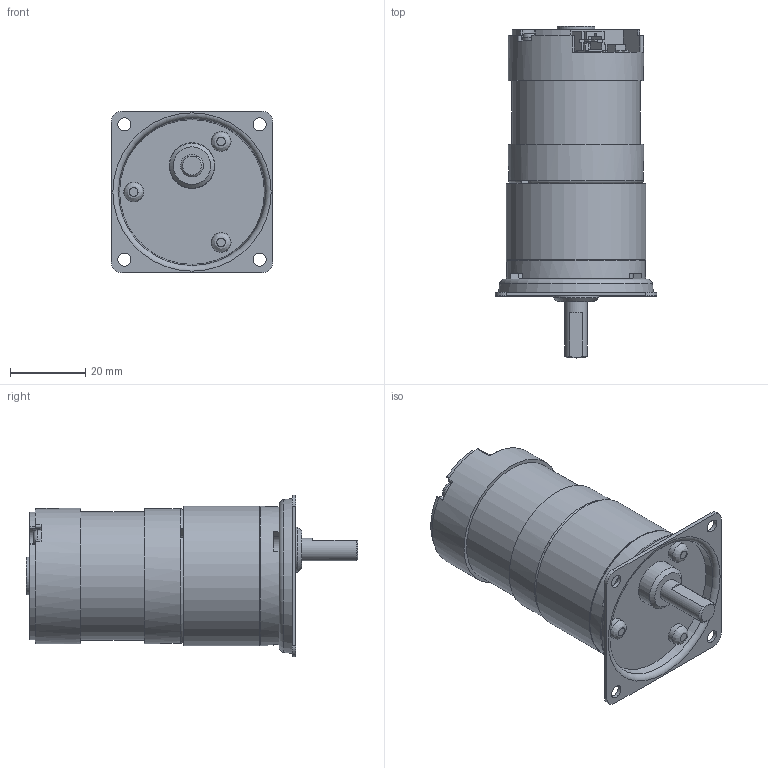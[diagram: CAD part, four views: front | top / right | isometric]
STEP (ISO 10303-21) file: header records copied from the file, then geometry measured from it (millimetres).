
FILE_DESCRIPTION((''),'2;1');
FILE_NAME('\\Servert1600\threepeace\2015homepage\STP\HP-Data_GM_3D_STEP\TP-3641AA,BA,CA,DA,EA(ドライバ内蔵)-PJ-40～100-P00-12,24.stp','2016-11-11T13:11:12',('Administrator'),(''),'Autodesk Inventor 2010','Autodesk Inventor 2010','');
FILE_SCHEMA(('AUTOMOTIVE_DESIGN { 1 0 10303 214 1 1 1 1 }'));
Length unit declared in the file: millimetre
Products named in the file (7): TP-3641AA,BA,CA,DA,EA(ドライバ内蔵)-PJ-40～100-P00-12,24; KJ-4; □43; TP-3641AA,BA,CA-24; TP-3641BA,l; S2B-PH-SM4-TB; SMD-TRIMMERS
Assembly tree (6 placements, depth 3):
  TP-3641AA,BA,CA,DA,EA(ドライバ内蔵)-PJ-40～100-P00-12,24
    KJ-4
    □43
    TP-3641AA,BA,CA-24
      TP-3641BA,l
      S2B-PH-SM4-TB
      SMD-TRIMMERS
Bounding box: 43 x 88.3 x 43 mm (x, y, z)
Volume: 68483.2 mm3; surface area: 18203.5 mm2
Topology: 6 solids, 6 shells, 272 faces, 708 edges, 468 vertices
Faces by surface type: plane 163, cylinder 54, bspline 44, torus 6, cone 5
Full cylindrical faces by diameter (mm): 1.9 x1, 2.5 x2, 5 x1, 5.3 x3, 6 x1, 10 x2, 12 x1, 12.2 x1, 34.1 x1, 36 x2, 36.6 x1, 37 x2
Entity records: 8673 total; most frequent: CARTESIAN_POINT 2188, DIRECTION 1259, ORIENTED_EDGE 1192, EDGE_CURVE 596, AXIS2_PLACEMENT_3D 428, VERTEX_POINT 425, VECTOR 403, LINE 403
